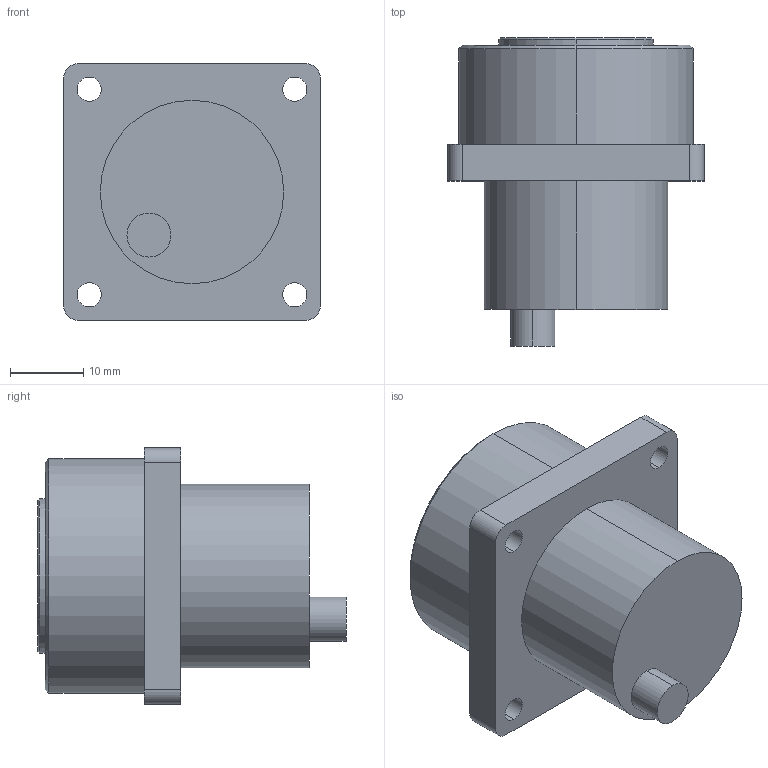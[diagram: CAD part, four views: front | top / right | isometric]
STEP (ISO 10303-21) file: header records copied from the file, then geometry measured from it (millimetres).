
FILE_DESCRIPTION (( 'STEP AP214' ), '1' );
FILE_NAME ('S37.T2S37F³ß´çÍ¼-24.11.28.STEP', '2024-11-28T06:11:27', ( '' ), ( '' ), 'SwSTEP 2.0', 'SolidWorks 2016', '' );
FILE_SCHEMA (( 'AUTOMOTIVE_DESIGN' ));
Length unit declared in the file: millimetre
Products named in the file (1): S37.T2S37F喜渡芞-24.11.28
Bounding box: 35 x 42 x 35 mm (x, y, z)
Volume: 25785.1 mm3; surface area: 6259.2 mm2
Topology: 1 solids, 1 shells, 50 faces, 120 edges, 72 vertices
Faces by surface type: cylinder 28, cone 12, plane 10
Entity records: 1726 total; most frequent: DIRECTION 274, CARTESIAN_POINT 235, ORIENTED_EDGE 224, EDGE_CURVE 112, AXIS2_PLACEMENT_3D 111, VERTEX_POINT 72, EDGE_LOOP 66, CIRCLE 60
